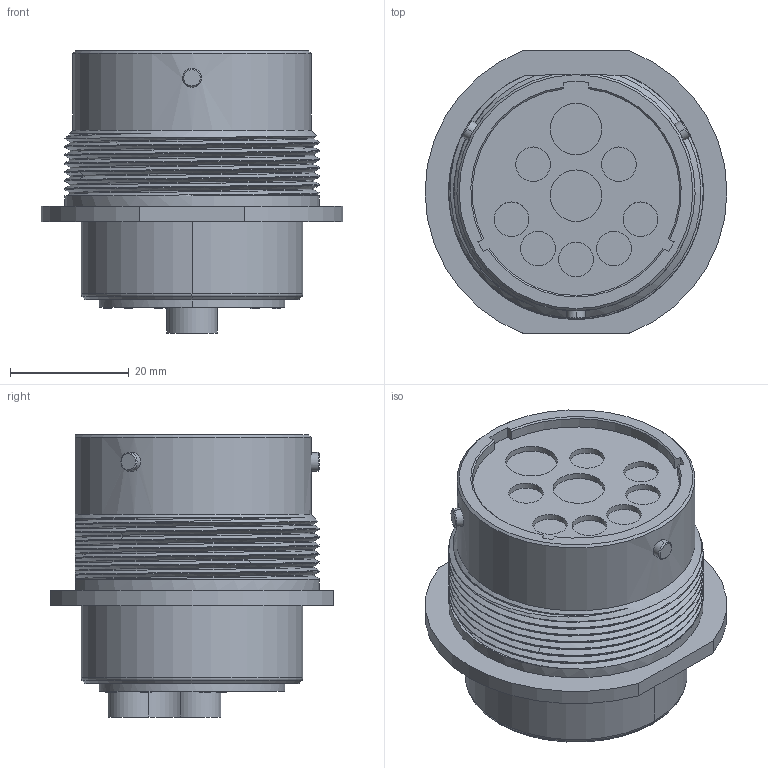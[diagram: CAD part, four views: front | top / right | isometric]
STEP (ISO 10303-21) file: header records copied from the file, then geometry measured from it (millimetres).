
FILE_DESCRIPTION((''),'2;1');
FILE_NAME('C-HD34-24-91PE','2013-09-13T',('workeradm'),('Tyco Electronics Ltd.'),'PRO/ENGINEER BY PARAMETRIC TECHNOLOGY CORPORATION, 2013050','PRO/ENGINEER BY PARAMETRIC TECHNOLOGY CORPORATION, 2013050','');
FILE_SCHEMA(('AUTOMOTIVE_DESIGN { 1 0 10303 214 1 1 1 1 }'));
Length unit declared in the file: millimetre
Products named in the file (1): C-HD34-24-91PE
Bounding box: 50.8 x 47.62 x 47.47 mm (x, y, z)
Volume: 52901.3 mm3; surface area: 11044 mm2
Topology: 1 solids, 1 shells, 387 faces, 1025 edges, 676 vertices
Faces by surface type: plane 261, cylinder 71, bspline 32, cone 15, torus 8
Entity records: 17111 total; most frequent: CARTESIAN_POINT 7451, ORIENTED_EDGE 2050, DIRECTION 1796, EDGE_CURVE 1025, VECTOR 776, LINE 776, VERTEX_POINT 676, AXIS2_PLACEMENT_3D 510
